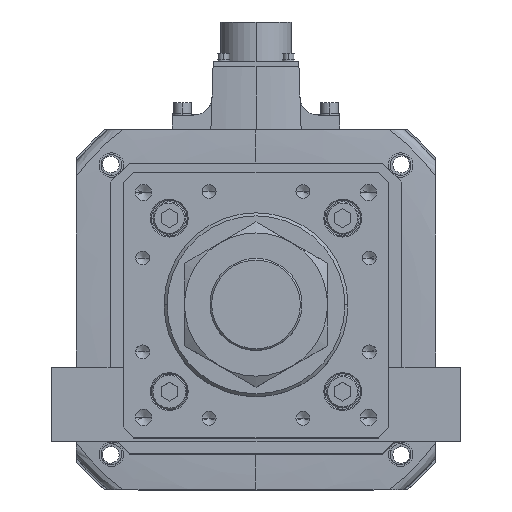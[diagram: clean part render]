
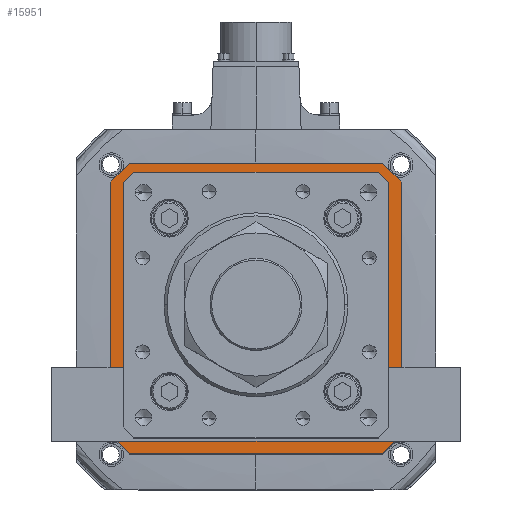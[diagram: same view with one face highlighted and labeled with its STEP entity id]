
A CAD part, top view. The second image highlights one B-rep face of the part: STEP entity #15951.
In plain terms, the highlighted planar face has unit normal (0, 0, 1).
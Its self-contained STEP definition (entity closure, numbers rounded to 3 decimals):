
#66 = EDGE_CURVE ( 'NONE', #504, #15598, #9832, .T. ) ;
#504 = VERTEX_POINT ( 'NONE', #46253 ) ;
#570 = LINE ( 'NONE', #23330, #41698 ) ;
#659 = DIRECTION ( 'NONE',  ( -0.707, -0.707, 0. ) ) ;
#922 = EDGE_CURVE ( 'NONE', #26093, #504, #10757, .T. ) ;
#1059 = LINE ( 'NONE', #10789, #25383 ) ;
#1339 = EDGE_LOOP ( 'NONE', ( #41735, #37588, #3677, #28863, #3105, #39445, #27992, #24413 ) ) ;
#1624 = DIRECTION ( 'NONE',  ( -0.707, 0.707, 0. ) ) ;
#2956 = ORIENTED_EDGE ( 'NONE', *, *, #922, .T. ) ;
#3105 = ORIENTED_EDGE ( 'NONE', *, *, #20185, .F. ) ;
#3677 = ORIENTED_EDGE ( 'NONE', *, *, #21986, .F. ) ;
#3704 = DIRECTION ( 'NONE',  ( 0., 1., 0. ) ) ;
#3816 = EDGE_CURVE ( 'NONE', #13131, #5082, #34058, .T. ) ;
#3855 = CARTESIAN_POINT ( 'NONE',  ( 63., 58.793, -142. ) ) ;
#4025 = ORIENTED_EDGE ( 'NONE', *, *, #7203, .T. ) ;
#4554 = VECTOR ( 'NONE', #7818, 1000. ) ;
#5082 = VERTEX_POINT ( 'NONE', #15046 ) ;
#5528 = CARTESIAN_POINT ( 'NONE',  ( 71., 62., -142. ) ) ;
#5531 = VECTOR ( 'NONE', #29939, 1000. ) ;
#5642 = EDGE_CURVE ( 'NONE', #42885, #26093, #53400, .T. ) ;
#5656 = CARTESIAN_POINT ( 'NONE',  ( -58.793, -63., -142. ) ) ;
#6812 = LINE ( 'NONE', #15776, #42562 ) ;
#7203 = EDGE_CURVE ( 'NONE', #25735, #33971, #6812, .T. ) ;
#7818 = DIRECTION ( 'NONE',  ( 0., 1., 0. ) ) ;
#8534 = CARTESIAN_POINT ( 'NONE',  ( -62., -71., -142. ) ) ;
#9245 = ORIENTED_EDGE ( 'NONE', *, *, #5642, .T. ) ;
#9577 = VERTEX_POINT ( 'NONE', #31600 ) ;
#9823 = DIRECTION ( 'NONE',  ( 1., 0., 0. ) ) ;
#9832 = LINE ( 'NONE', #32850, #44920 ) ;
#10757 = LINE ( 'NONE', #34417, #49810 ) ;
#10789 = CARTESIAN_POINT ( 'NONE',  ( 63., 0., -142. ) ) ;
#11362 = CARTESIAN_POINT ( 'NONE',  ( -62., 71., -142. ) ) ;
#12009 = ORIENTED_EDGE ( 'NONE', *, *, #51995, .T. ) ;
#12862 = VERTEX_POINT ( 'NONE', #35947 ) ;
#13131 = VERTEX_POINT ( 'NONE', #41363 ) ;
#13439 = LINE ( 'NONE', #39515, #26960 ) ;
#14590 = CARTESIAN_POINT ( 'NONE',  ( -71., -62., -142. ) ) ;
#14593 = DIRECTION ( 'NONE',  ( 0., -1., 0. ) ) ;
#15046 = CARTESIAN_POINT ( 'NONE',  ( 71., 62., -142. ) ) ;
#15598 = VERTEX_POINT ( 'NONE', #3855 ) ;
#15776 = CARTESIAN_POINT ( 'NONE',  ( 0., -63., -142. ) ) ;
#15951 = ADVANCED_FACE ( 'NONE', ( #27600, #19468 ), #19235, .T. ) ;
#17130 = EDGE_CURVE ( 'NONE', #5082, #35487, #43236, .T. ) ;
#19235 = PLANE ( 'NONE',  #28103 ) ;
#19312 = CARTESIAN_POINT ( 'NONE',  ( -63., 58.793, -142. ) ) ;
#19468 = FACE_OUTER_BOUND ( 'NONE', #1339, .T. ) ;
#19652 = DIRECTION ( 'NONE',  ( 0., -1., 0. ) ) ;
#20185 = EDGE_CURVE ( 'NONE', #9577, #29600, #49055, .T. ) ;
#20742 = VECTOR ( 'NONE', #22401, 1000. ) ;
#21092 = VECTOR ( 'NONE', #27644, 1000. ) ;
#21206 = VECTOR ( 'NONE', #3704, 1000. ) ;
#21804 = DIRECTION ( 'NONE',  ( 1., 0., 0. ) ) ;
#21986 = EDGE_CURVE ( 'NONE', #45483, #12862, #32674, .T. ) ;
#22401 = DIRECTION ( 'NONE',  ( -1., 0., 0. ) ) ;
#23039 = CARTESIAN_POINT ( 'NONE',  ( 58.793, -63., -142. ) ) ;
#23330 = CARTESIAN_POINT ( 'NONE',  ( -62., -71., -142. ) ) ;
#23665 = VECTOR ( 'NONE', #14593, 1000. ) ;
#23693 = VECTOR ( 'NONE', #28832, 1000. ) ;
#23770 = CARTESIAN_POINT ( 'NONE',  ( 0., 0., -142. ) ) ;
#23824 = EDGE_CURVE ( 'NONE', #12862, #27409, #31821, .T. ) ;
#24316 = LINE ( 'NONE', #33131, #23693 ) ;
#24413 = ORIENTED_EDGE ( 'NONE', *, *, #3816, .F. ) ;
#24545 = DIRECTION ( 'NONE',  ( 0.707, -0.707, 0. ) ) ;
#25383 = VECTOR ( 'NONE', #19652, 1000. ) ;
#25735 = VERTEX_POINT ( 'NONE', #23039 ) ;
#25792 = EDGE_CURVE ( 'NONE', #27409, #13131, #48992, .T. ) ;
#25958 = CARTESIAN_POINT ( 'NONE',  ( 71., 62., -142. ) ) ;
#26093 = VERTEX_POINT ( 'NONE', #55941 ) ;
#26918 = DIRECTION ( 'NONE',  ( -0.707, -0.707, 0. ) ) ;
#26960 = VECTOR ( 'NONE', #659, 1000. ) ;
#27409 = VERTEX_POINT ( 'NONE', #11362 ) ;
#27600 = FACE_BOUND ( 'NONE', #38260, .T. ) ;
#27644 = DIRECTION ( 'NONE',  ( 0.707, 0.707, 0. ) ) ;
#27908 = DIRECTION ( 'NONE',  ( 0., 0., 1. ) ) ;
#27992 = ORIENTED_EDGE ( 'NONE', *, *, #17130, .F. ) ;
#28103 = AXIS2_PLACEMENT_3D ( 'NONE', #23770, #27908, #31845 ) ;
#28832 = DIRECTION ( 'NONE',  ( -0.707, 0.707, 0. ) ) ;
#28863 = ORIENTED_EDGE ( 'NONE', *, *, #30871, .F. ) ;
#29600 = VERTEX_POINT ( 'NONE', #8534 ) ;
#29939 = DIRECTION ( 'NONE',  ( 0.707, 0.707, 0. ) ) ;
#30871 = EDGE_CURVE ( 'NONE', #29600, #45483, #570, .T. ) ;
#31600 = CARTESIAN_POINT ( 'NONE',  ( 62., -71., -142. ) ) ;
#31821 = LINE ( 'NONE', #47246, #5531 ) ;
#31845 = DIRECTION ( 'NONE',  ( 1., 0., 0. ) ) ;
#32674 = LINE ( 'NONE', #54182, #21206 ) ;
#32721 = VECTOR ( 'NONE', #46857, 1000. ) ;
#32725 = EDGE_CURVE ( 'NONE', #35487, #9577, #46267, .T. ) ;
#32850 = CARTESIAN_POINT ( 'NONE',  ( 60.896, 60.896, -142. ) ) ;
#33131 = CARTESIAN_POINT ( 'NONE',  ( -60.896, -60.896, -142. ) ) ;
#33971 = VERTEX_POINT ( 'NONE', #5656 ) ;
#34058 = LINE ( 'NONE', #25958, #32721 ) ;
#34214 = EDGE_CURVE ( 'NONE', #44278, #25735, #13439, .T. ) ;
#34417 = CARTESIAN_POINT ( 'NONE',  ( 0., 63., -142. ) ) ;
#34818 = VECTOR ( 'NONE', #9823, 1000. ) ;
#35029 = CARTESIAN_POINT ( 'NONE',  ( 62., -71., -142. ) ) ;
#35487 = VERTEX_POINT ( 'NONE', #54027 ) ;
#35657 = CARTESIAN_POINT ( 'NONE',  ( 62., 71., -142. ) ) ;
#35722 = CARTESIAN_POINT ( 'NONE',  ( -60.896, 60.896, -142. ) ) ;
#35947 = CARTESIAN_POINT ( 'NONE',  ( -71., 62., -142. ) ) ;
#36048 = ORIENTED_EDGE ( 'NONE', *, *, #34214, .T. ) ;
#37588 = ORIENTED_EDGE ( 'NONE', *, *, #23824, .F. ) ;
#38260 = EDGE_LOOP ( 'NONE', ( #12009, #36048, #4025, #45338, #47629, #9245, #2956, #39284 ) ) ;
#38822 = VECTOR ( 'NONE', #26918, 1000. ) ;
#39284 = ORIENTED_EDGE ( 'NONE', *, *, #66, .T. ) ;
#39445 = ORIENTED_EDGE ( 'NONE', *, *, #32725, .F. ) ;
#39515 = CARTESIAN_POINT ( 'NONE',  ( 60.896, -60.896, -142. ) ) ;
#39592 = LINE ( 'NONE', #45867, #4554 ) ;
#39615 = CARTESIAN_POINT ( 'NONE',  ( -63., -58.793, -142. ) ) ;
#40931 = VERTEX_POINT ( 'NONE', #39615 ) ;
#41363 = CARTESIAN_POINT ( 'NONE',  ( 62., 71., -142. ) ) ;
#41410 = DIRECTION ( 'NONE',  ( -1., 0., 0. ) ) ;
#41698 = VECTOR ( 'NONE', #1624, 1000. ) ;
#41735 = ORIENTED_EDGE ( 'NONE', *, *, #25792, .F. ) ;
#42562 = VECTOR ( 'NONE', #41410, 1000. ) ;
#42885 = VERTEX_POINT ( 'NONE', #19312 ) ;
#43236 = LINE ( 'NONE', #5528, #23665 ) ;
#44278 = VERTEX_POINT ( 'NONE', #51616 ) ;
#44920 = VECTOR ( 'NONE', #24545, 1000. ) ;
#45338 = ORIENTED_EDGE ( 'NONE', *, *, #46213, .T. ) ;
#45483 = VERTEX_POINT ( 'NONE', #14590 ) ;
#45867 = CARTESIAN_POINT ( 'NONE',  ( -63., 0., -142. ) ) ;
#46213 = EDGE_CURVE ( 'NONE', #33971, #40931, #24316, .T. ) ;
#46253 = CARTESIAN_POINT ( 'NONE',  ( 58.793, 63., -142. ) ) ;
#46267 = LINE ( 'NONE', #52677, #38822 ) ;
#46857 = DIRECTION ( 'NONE',  ( 0.707, -0.707, 0. ) ) ;
#47246 = CARTESIAN_POINT ( 'NONE',  ( -62., 71., -142. ) ) ;
#47629 = ORIENTED_EDGE ( 'NONE', *, *, #48488, .T. ) ;
#48488 = EDGE_CURVE ( 'NONE', #40931, #42885, #39592, .T. ) ;
#48992 = LINE ( 'NONE', #35657, #34818 ) ;
#49055 = LINE ( 'NONE', #35029, #20742 ) ;
#49810 = VECTOR ( 'NONE', #21804, 1000. ) ;
#51616 = CARTESIAN_POINT ( 'NONE',  ( 63., -58.793, -142. ) ) ;
#51995 = EDGE_CURVE ( 'NONE', #15598, #44278, #1059, .T. ) ;
#52677 = CARTESIAN_POINT ( 'NONE',  ( 71., -62., -142. ) ) ;
#53400 = LINE ( 'NONE', #35722, #21092 ) ;
#54027 = CARTESIAN_POINT ( 'NONE',  ( 71., -62., -142. ) ) ;
#54182 = CARTESIAN_POINT ( 'NONE',  ( -71., 62., -142. ) ) ;
#55941 = CARTESIAN_POINT ( 'NONE',  ( -58.793, 63., -142. ) ) ;
